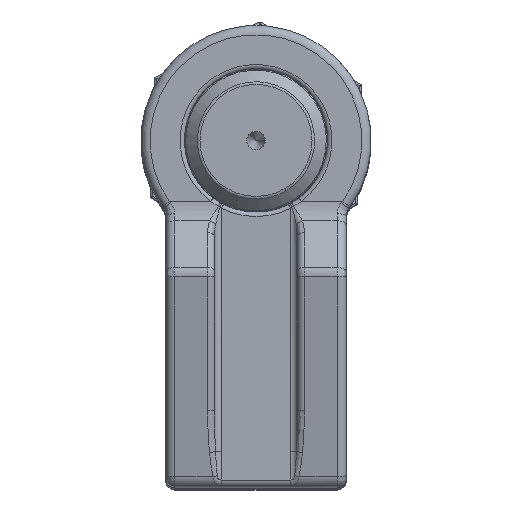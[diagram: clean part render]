
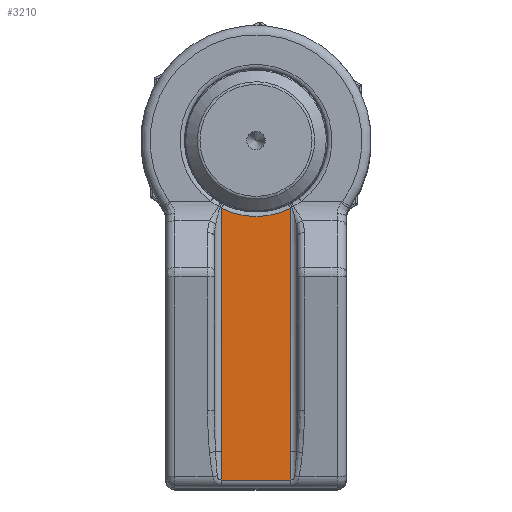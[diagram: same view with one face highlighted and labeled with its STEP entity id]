
A CAD part, top view. The second image highlights one B-rep face of the part: STEP entity #3210.
In plain terms, the highlighted planar face has unit normal (0, 0, 1).
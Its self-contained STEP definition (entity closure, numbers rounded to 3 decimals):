
#269=CIRCLE('',#3422,16.5);
#448=PLANE('',#3639);
#656=FACE_OUTER_BOUND('',#880,.T.);
#880=EDGE_LOOP('',(#2913,#2914,#2915,#2916,#2917,#2918));
#1078=LINE('',#21377,#1234);
#1084=LINE('',#21514,#1240);
#1085=LINE('',#21516,#1241);
#1113=LINE('',#21821,#1269);
#1115=LINE('',#21824,#1271);
#1234=VECTOR('',#4370,10.);
#1240=VECTOR('',#4414,10.);
#1241=VECTOR('',#4417,10.);
#1269=VECTOR('',#4575,10.);
#1271=VECTOR('',#4579,10.);
#1410=VERTEX_POINT('',#20589);
#1412=VERTEX_POINT('',#20595);
#1488=VERTEX_POINT('',#21204);
#1508=VERTEX_POINT('',#21375);
#1510=VERTEX_POINT('',#21404);
#1521=VERTEX_POINT('',#21512);
#1769=EDGE_CURVE('',#1410,#1412,#269,.T.);
#1924=EDGE_CURVE('',#1508,#1488,#1078,.T.);
#1947=EDGE_CURVE('',#1521,#1410,#1084,.T.);
#1948=EDGE_CURVE('',#1510,#1521,#1085,.T.);
#2013=EDGE_CURVE('',#1412,#1508,#1113,.T.);
#2015=EDGE_CURVE('',#1488,#1510,#1115,.T.);
#2913=ORIENTED_EDGE('',*,*,#1769,.F.);
#2914=ORIENTED_EDGE('',*,*,#1947,.F.);
#2915=ORIENTED_EDGE('',*,*,#1948,.F.);
#2916=ORIENTED_EDGE('',*,*,#2015,.F.);
#2917=ORIENTED_EDGE('',*,*,#1924,.F.);
#2918=ORIENTED_EDGE('',*,*,#2013,.F.);
#3210=ADVANCED_FACE('',(#656),#448,.T.);
#3422=AXIS2_PLACEMENT_3D('',#20599,#4065,#4066);
#3639=AXIS2_PLACEMENT_3D('',#21825,#4580,#4581);
#4065=DIRECTION('center_axis',(0.,0.,1.));
#4066=DIRECTION('ref_axis',(0.,-1.,0.));
#4370=DIRECTION('',(0.,-1.,0.));
#4414=DIRECTION('',(0.,1.,0.));
#4417=DIRECTION('',(0.,1.,0.));
#4575=DIRECTION('',(0.,-1.,0.));
#4579=DIRECTION('',(-1.,0.,0.));
#4580=DIRECTION('center_axis',(0.,0.,1.));
#4581=DIRECTION('ref_axis',(1.,0.,0.));
#20589=CARTESIAN_POINT('',(-7.5,-14.697,0.));
#20595=CARTESIAN_POINT('',(7.5,-14.697,0.));
#20599=CARTESIAN_POINT('Origin',(0.,0.,0.));
#21204=CARTESIAN_POINT('',(7.5,-73.691,0.));
#21375=CARTESIAN_POINT('',(7.5,-67.5,0.));
#21377=CARTESIAN_POINT('',(7.5,-38.25,0.));
#21404=CARTESIAN_POINT('',(-7.5,-73.691,0.));
#21512=CARTESIAN_POINT('',(-7.5,-67.5,0.));
#21514=CARTESIAN_POINT('',(-7.5,-6.31,0.));
#21516=CARTESIAN_POINT('',(-7.5,-6.31,0.));
#21821=CARTESIAN_POINT('',(7.5,-38.25,0.));
#21824=CARTESIAN_POINT('',(0.,-73.691,0.));
#21825=CARTESIAN_POINT('Origin',(0.,0.,0.));
